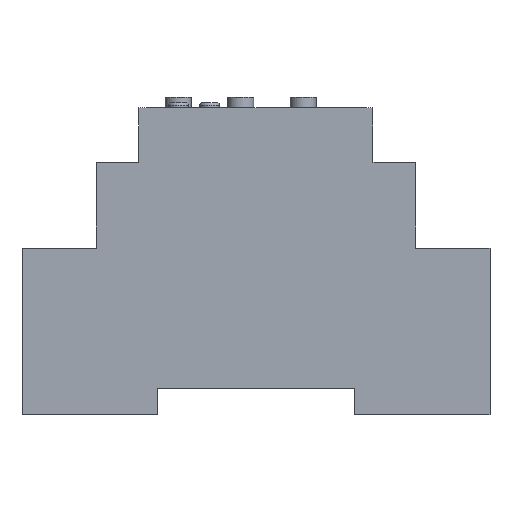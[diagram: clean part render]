
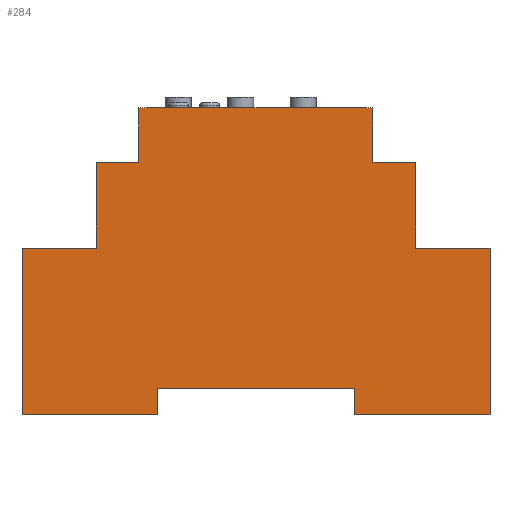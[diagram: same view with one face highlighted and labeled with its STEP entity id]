
A CAD part, left-side view. The second image highlights one B-rep face of the part: STEP entity #284.
In plain terms, the highlighted planar face has unit normal (-1, 0, 0).
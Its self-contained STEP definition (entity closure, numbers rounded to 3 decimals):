
#284=ADVANCED_FACE('',(#7385),#7387,.T.);
#7385=FACE_BOUND('',#7386,.T.);
#7386=EDGE_LOOP('',(#13081,#13082,#13083,#13084,#13085,#13086,#13087,#13088,#13089,
#13090,#13091,#13092,#13093,#13094,#13095,#13096));
#7387=PLANE('',#7388);
#7388=AXIS2_PLACEMENT_3D('',#7389,#7390,#7391);
#7389=CARTESIAN_POINT('',(-35.,0.,0.));
#7390=DIRECTION('',(-1.,0.,0.));
#7391=DIRECTION('',(0.,0.,-1.));
#13081=ORIENTED_EDGE('',*,*,#17681,.T.);
#13082=ORIENTED_EDGE('',*,*,#17646,.T.);
#13083=ORIENTED_EDGE('',*,*,#17672,.T.);
#13084=ORIENTED_EDGE('',*,*,#17682,.T.);
#13085=ORIENTED_EDGE('',*,*,#17683,.T.);
#13086=ORIENTED_EDGE('',*,*,#17684,.T.);
#13087=ORIENTED_EDGE('',*,*,#17685,.T.);
#13088=ORIENTED_EDGE('',*,*,#17686,.T.);
#13089=ORIENTED_EDGE('',*,*,#17687,.T.);
#13090=ORIENTED_EDGE('',*,*,#17688,.T.);
#13091=ORIENTED_EDGE('',*,*,#17689,.T.);
#13092=ORIENTED_EDGE('',*,*,#17690,.T.);
#13093=ORIENTED_EDGE('',*,*,#17691,.T.);
#13094=ORIENTED_EDGE('',*,*,#17692,.T.);
#13095=ORIENTED_EDGE('',*,*,#17693,.T.);
#13096=ORIENTED_EDGE('',*,*,#17694,.T.);
#17646=EDGE_CURVE('',#19699,#19697,#19700,.T.);
#17672=EDGE_CURVE('',#19697,#19743,#19745,.T.);
#17681=EDGE_CURVE('',#19761,#19699,#19762,.T.);
#17682=EDGE_CURVE('',#19743,#19763,#19764,.T.);
#17683=EDGE_CURVE('',#19763,#19765,#19766,.T.);
#17684=EDGE_CURVE('',#19765,#19767,#19768,.T.);
#17685=EDGE_CURVE('',#19767,#19769,#19770,.T.);
#17686=EDGE_CURVE('',#19769,#19771,#19772,.T.);
#17687=EDGE_CURVE('',#19771,#19773,#19774,.T.);
#17688=EDGE_CURVE('',#19773,#19775,#19776,.T.);
#17689=EDGE_CURVE('',#19775,#19777,#19778,.T.);
#17690=EDGE_CURVE('',#19777,#19779,#19780,.T.);
#17691=EDGE_CURVE('',#19779,#19781,#19782,.T.);
#17692=EDGE_CURVE('',#19781,#19783,#19784,.T.);
#17693=EDGE_CURVE('',#19783,#19785,#19786,.T.);
#17694=EDGE_CURVE('',#19785,#19761,#19787,.T.);
#19697=VERTEX_POINT('',#23152);
#19699=VERTEX_POINT('',#23156);
#19700=LINE('',#23157,#23158);
#19743=VERTEX_POINT('',#23254);
#19745=LINE('',#23258,#23259);
#19761=VERTEX_POINT('',#23299);
#19762=LINE('',#23300,#23301);
#19763=VERTEX_POINT('',#23303);
#19764=LINE('',#23304,#23305);
#19765=VERTEX_POINT('',#23307);
#19766=LINE('',#23308,#23309);
#19767=VERTEX_POINT('',#23311);
#19768=LINE('',#23312,#23313);
#19769=VERTEX_POINT('',#23315);
#19770=LINE('',#23316,#23317);
#19771=VERTEX_POINT('',#23319);
#19772=LINE('',#23320,#23321);
#19773=VERTEX_POINT('',#23323);
#19774=LINE('',#23324,#23325);
#19775=VERTEX_POINT('',#23327);
#19776=LINE('',#23328,#23329);
#19777=VERTEX_POINT('',#23331);
#19778=LINE('',#23332,#23333);
#19779=VERTEX_POINT('',#23335);
#19780=LINE('',#23336,#23337);
#19781=VERTEX_POINT('',#23339);
#19782=LINE('',#23340,#23341);
#19783=VERTEX_POINT('',#23343);
#19784=LINE('',#23344,#23345);
#19785=VERTEX_POINT('',#23347);
#19786=LINE('',#23348,#23349);
#19787=LINE('',#23351,#23352);
#23152=CARTESIAN_POINT('',(-35.,-45.,27.));
#23156=CARTESIAN_POINT('',(-35.,-45.,-5.));
#23157=CARTESIAN_POINT('',(-35.,-45.,-5.));
#23158=VECTOR('',#23159,1.);
#23159=DIRECTION('',(0.,0.,1.));
#23254=CARTESIAN_POINT('',(-35.,-30.75,27.));
#23258=CARTESIAN_POINT('',(-35.,-45.,27.));
#23259=VECTOR('',#23260,1.);
#23260=DIRECTION('',(0.,1.,0.));
#23299=CARTESIAN_POINT('',(-35.,-19.,-5.));
#23300=CARTESIAN_POINT('',(-35.,-19.,-5.));
#23301=VECTOR('',#23302,1.);
#23302=DIRECTION('',(0.,-1.,0.));
#23303=CARTESIAN_POINT('',(-35.,-30.75,43.5));
#23304=CARTESIAN_POINT('',(-35.,-30.75,27.));
#23305=VECTOR('',#23306,1.);
#23306=DIRECTION('',(0.,0.,1.));
#23307=CARTESIAN_POINT('',(-35.,-22.5,43.5));
#23308=CARTESIAN_POINT('',(-35.,-30.75,43.5));
#23309=VECTOR('',#23310,1.);
#23310=DIRECTION('',(0.,1.,0.));
#23311=CARTESIAN_POINT('',(-35.,-22.5,54.));
#23312=CARTESIAN_POINT('',(-35.,-22.5,43.5));
#23313=VECTOR('',#23314,1.);
#23314=DIRECTION('',(0.,0.,1.));
#23315=CARTESIAN_POINT('',(-35.,22.5,54.));
#23316=CARTESIAN_POINT('',(-35.,-22.5,54.));
#23317=VECTOR('',#23318,1.);
#23318=DIRECTION('',(0.,1.,0.));
#23319=CARTESIAN_POINT('',(-35.,22.5,43.5));
#23320=CARTESIAN_POINT('',(-35.,22.5,54.));
#23321=VECTOR('',#23322,1.);
#23322=DIRECTION('',(0.,0.,-1.));
#23323=CARTESIAN_POINT('',(-35.,30.75,43.5));
#23324=CARTESIAN_POINT('',(-35.,22.5,43.5));
#23325=VECTOR('',#23326,1.);
#23326=DIRECTION('',(0.,1.,0.));
#23327=CARTESIAN_POINT('',(-35.,30.75,27.));
#23328=CARTESIAN_POINT('',(-35.,30.75,43.5));
#23329=VECTOR('',#23330,1.);
#23330=DIRECTION('',(0.,0.,-1.));
#23331=CARTESIAN_POINT('',(-35.,45.,27.));
#23332=CARTESIAN_POINT('',(-35.,30.75,27.));
#23333=VECTOR('',#23334,1.);
#23334=DIRECTION('',(0.,1.,0.));
#23335=CARTESIAN_POINT('',(-35.,45.,-5.));
#23336=CARTESIAN_POINT('',(-35.,45.,27.));
#23337=VECTOR('',#23338,1.);
#23338=DIRECTION('',(0.,0.,-1.));
#23339=CARTESIAN_POINT('',(-35.,19.,-5.));
#23340=CARTESIAN_POINT('',(-35.,45.,-5.));
#23341=VECTOR('',#23342,1.);
#23342=DIRECTION('',(0.,-1.,0.));
#23343=CARTESIAN_POINT('',(-35.,19.,0.));
#23344=CARTESIAN_POINT('',(-35.,19.,-5.));
#23345=VECTOR('',#23346,1.);
#23346=DIRECTION('',(0.,0.,1.));
#23347=CARTESIAN_POINT('',(-35.,-19.,0.));
#23348=CARTESIAN_POINT('',(-35.,19.,0.));
#23349=VECTOR('',#23350,1.);
#23350=DIRECTION('',(0.,-1.,0.));
#23351=CARTESIAN_POINT('',(-35.,-19.,0.));
#23352=VECTOR('',#23353,1.);
#23353=DIRECTION('',(0.,0.,-1.));
